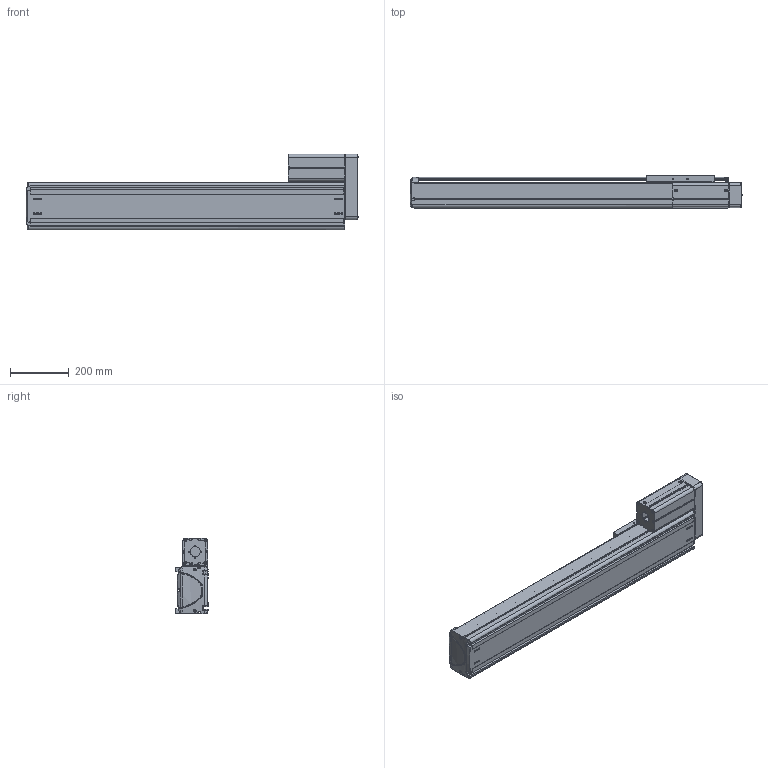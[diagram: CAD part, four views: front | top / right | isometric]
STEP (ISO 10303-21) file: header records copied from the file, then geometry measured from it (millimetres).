
FILE_DESCRIPTION((''),'2;1');
FILE_NAME('BE50F-UR-L_B-75_IGS_PRT','2017-06-18T',(' '),(''),'PRO/ENGINEER BY PARAMETRIC TECHNOLOGY CORPORATION, 2015030','PRO/ENGINEER BY PARAMETRIC TECHNOLOGY CORPORATION, 2015030','');
FILE_SCHEMA(('CONFIG_CONTROL_DESIGN'));
Length unit declared in the file: millimetre
Products named in the file (1): BE50F-UR-L_B-75_IGS_PRT
Bounding box: 1125.88 x 110 x 257 mm (x, y, z)
Volume: 5503379.2 mm3; surface area: 2009297.8 mm2
Topology: 2 solids, 129 shells, 2237 faces, 6114 edges, 3990 vertices
Faces by surface type: plane 1014, cylinder 951, cone 133, torus 59, bspline 48, sphere 32
Entity records: 74270 total; most frequent: CARTESIAN_POINT 17026, DIRECTION 11977, ORIENTED_EDGE 11648, EDGE_CURVE 6064, AXIS2_PLACEMENT_3D 4273, VERTEX_POINT 3984, VECTOR 3431, LINE 3431
